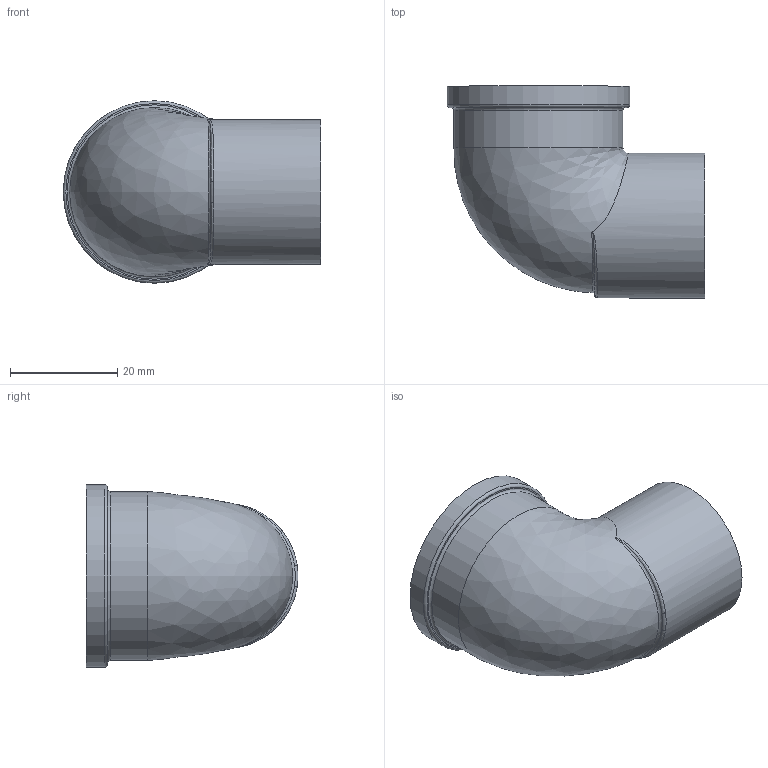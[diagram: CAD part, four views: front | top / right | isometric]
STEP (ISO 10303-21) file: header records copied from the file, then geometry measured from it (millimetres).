
FILE_DESCRIPTION(/* description */ (''),/* implementation_level */ '2;1');
FILE_NAME(/* name */ '\\LG50011\SANHA_Legnica\Engineering\Public\RYSUNKI\SANHA POLSKA\4090\inventor\140902234.stp',/* time_stamp */ '2019-04-26T10:19:33+02:00',/* author */ ('gomulka'),/* organization */ (''),/* preprocessor_version */ 'ST-DEVELOPER v17',/* originating_system */ 'Autodesk Inventor 2019',/* authorisation */ '');
FILE_SCHEMA (('AUTOMOTIVE_DESIGN { 1 0 10303 214 3 1 1 }'));
Length unit declared in the file: millimetre
Products named in the file (1): 40902234
Bounding box: 48 x 39.5 x 34 mm (x, y, z)
Volume: 12472.8 mm3; surface area: 9263.5 mm2
Topology: 1 solids, 1 shells, 20 faces, 54 edges, 39 vertices
Faces by surface type: plane 6, bspline 5, cylinder 5, torus 3, cone 1
Full cylindrical faces by diameter (mm): 22.13 x1, 24.117 x1, 27 x1, 31.5 x1, 34 x1
Entity records: 1432 total; most frequent: CARTESIAN_POINT 888, ORIENTED_EDGE 108, DIRECTION 102, EDGE_CURVE 54, AXIS2_PLACEMENT_3D 48, VERTEX_POINT 39, CIRCLE 32, EDGE_LOOP 25
